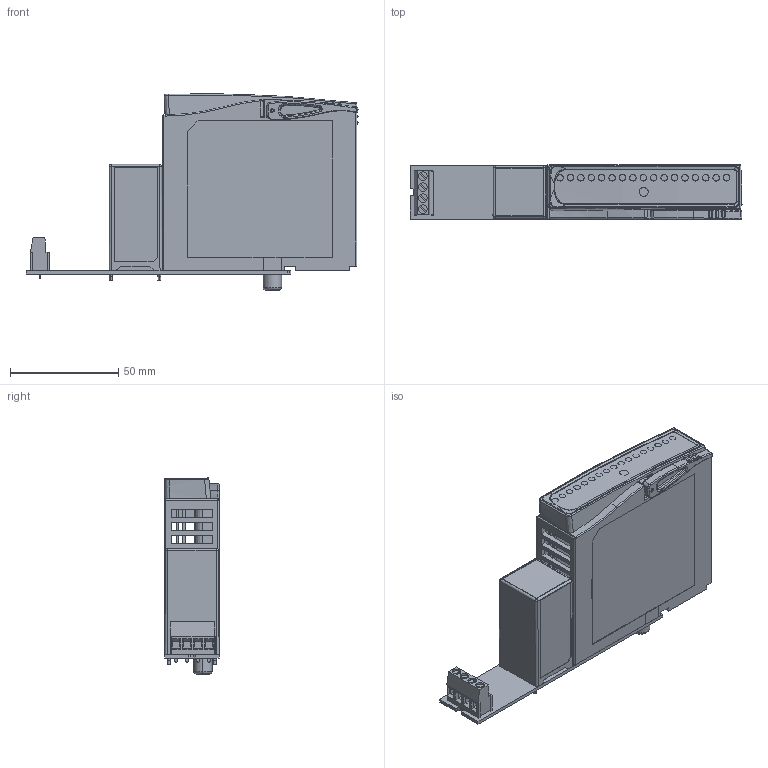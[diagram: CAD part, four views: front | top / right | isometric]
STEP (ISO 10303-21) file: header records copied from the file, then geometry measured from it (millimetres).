
FILE_DESCRIPTION((''),'2;1');
FILE_NAME('ZI_MODULE_IGESFILE','2012-04-11T',('chrisloe'),(''),'PRO/ENGINEER BY PARAMETRIC TECHNOLOGY CORPORATION, 2010180','PRO/ENGINEER BY PARAMETRIC TECHNOLOGY CORPORATION, 2010180','');
FILE_SCHEMA(('CONFIG_CONTROL_DESIGN'));
Products named in the file (1): ZI_MODULE_IGESFILE
Bounding box: 153.1 x 25.05 x 90.46 mm (x, y, z)
Volume: 56639.5 mm3; surface area: 66435.6 mm2
Topology: 1 solids, 2 shells, 2017 faces, 5700 edges, 3694 vertices
Faces by surface type: plane 1500, cylinder 316, cone 81, bspline 47, torus 41, sphere 28, extrusion 4
Entity records: 69362 total; most frequent: CARTESIAN_POINT 18240, ORIENTED_EDGE 11388, DIRECTION 9497, EDGE_CURVE 5694, VECTOR 3903, LINE 3899, VERTEX_POINT 3694, AXIS2_PLACEMENT_3D 2797
